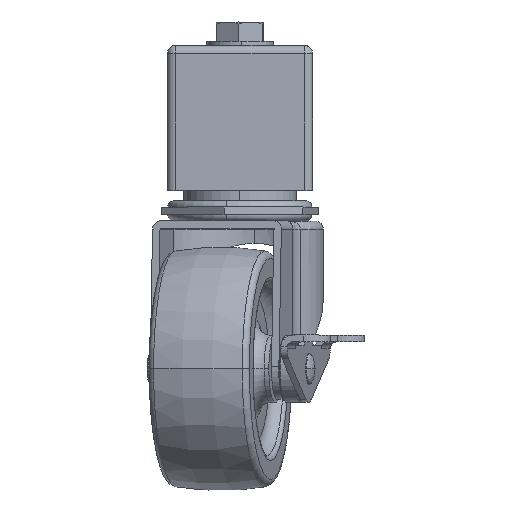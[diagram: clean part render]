
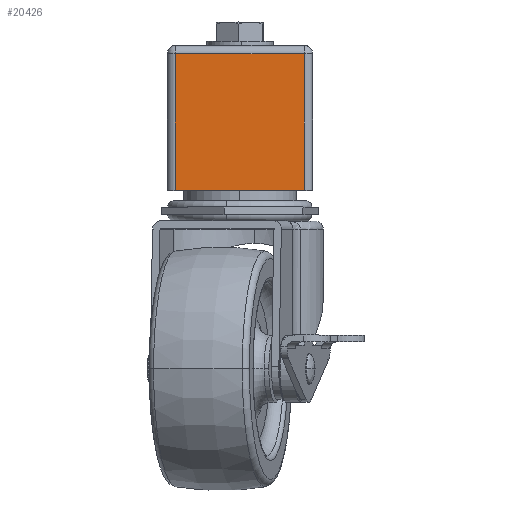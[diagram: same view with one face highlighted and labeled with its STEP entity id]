
A CAD part, top view. The second image highlights one B-rep face of the part: STEP entity #20426.
In plain terms, the highlighted planar face has unit normal (0, 0, 1).
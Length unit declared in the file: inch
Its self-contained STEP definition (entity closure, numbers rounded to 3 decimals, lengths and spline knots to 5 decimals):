
#185 = PLANE ( 'NONE',  #11524 ) ;
#248 = VERTEX_POINT ( 'NONE', #14404 ) ;
#592 = EDGE_LOOP ( 'NONE', ( #14547, #16388, #2541, #22829 ) ) ;
#1020 = LINE ( 'NONE', #5839, #20163 ) ;
#1183 = VERTEX_POINT ( 'NONE', #12352 ) ;
#1207 = VECTOR ( 'NONE', #11479, 39.37008 ) ;
#1961 = DIRECTION ( 'NONE',  ( -1., 0., 0. ) ) ;
#2541 = ORIENTED_EDGE ( 'NONE', *, *, #20547, .T. ) ;
#3800 = EDGE_CURVE ( 'NONE', #7489, #14992, #9287, .T. ) ;
#4049 = DIRECTION ( 'NONE',  ( -1., 0., 0. ) ) ;
#5839 = CARTESIAN_POINT ( 'NONE',  ( 0.89, -0.1, 0. ) ) ;
#7469 = FACE_OUTER_BOUND ( 'NONE', #592, .T. ) ;
#7489 = VERTEX_POINT ( 'NONE', #18026 ) ;
#8915 = CARTESIAN_POINT ( 'NONE',  ( 0.89, -1.775, 0. ) ) ;
#9287 = LINE ( 'NONE', #8915, #13531 ) ;
#9318 = VECTOR ( 'NONE', #18386, 39.37008 ) ;
#9691 = CARTESIAN_POINT ( 'NONE',  ( -0.79, 0., 0. ) ) ;
#11479 = DIRECTION ( 'NONE',  ( 0., -1., 0. ) ) ;
#11524 = AXIS2_PLACEMENT_3D ( 'NONE', #12677, #12750, #1961 ) ;
#11578 = EDGE_CURVE ( 'NONE', #248, #14992, #20342, .T. ) ;
#12184 = EDGE_CURVE ( 'NONE', #7489, #1183, #13892, .T. ) ;
#12352 = CARTESIAN_POINT ( 'NONE',  ( 0.79, -0.1, 0. ) ) ;
#12677 = CARTESIAN_POINT ( 'NONE',  ( 0.89, 0., 0. ) ) ;
#12750 = DIRECTION ( 'NONE',  ( 0., 0., -1. ) ) ;
#13531 = VECTOR ( 'NONE', #16176, 39.37008 ) ;
#13892 = LINE ( 'NONE', #16596, #9318 ) ;
#14404 = CARTESIAN_POINT ( 'NONE',  ( -0.79, -0.1, 0. ) ) ;
#14547 = ORIENTED_EDGE ( 'NONE', *, *, #3800, .F. ) ;
#14992 = VERTEX_POINT ( 'NONE', #20686 ) ;
#16176 = DIRECTION ( 'NONE',  ( -1., 0., 0. ) ) ;
#16388 = ORIENTED_EDGE ( 'NONE', *, *, #12184, .T. ) ;
#16596 = CARTESIAN_POINT ( 'NONE',  ( 0.79, 0., 0. ) ) ;
#18026 = CARTESIAN_POINT ( 'NONE',  ( 0.79, -1.775, 0. ) ) ;
#18386 = DIRECTION ( 'NONE',  ( 0., 1., 0. ) ) ;
#20163 = VECTOR ( 'NONE', #4049, 39.37008 ) ;
#20342 = LINE ( 'NONE', #9691, #1207 ) ;
#20426 = ADVANCED_FACE ( 'NONE', ( #7469 ), #185, .F. ) ;
#20547 = EDGE_CURVE ( 'NONE', #1183, #248, #1020, .T. ) ;
#20686 = CARTESIAN_POINT ( 'NONE',  ( -0.79, -1.775, 0. ) ) ;
#22829 = ORIENTED_EDGE ( 'NONE', *, *, #11578, .T. ) ;
